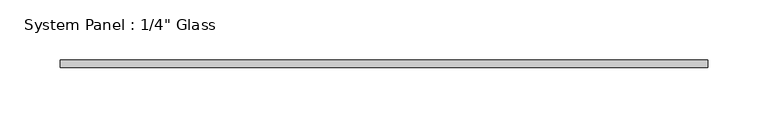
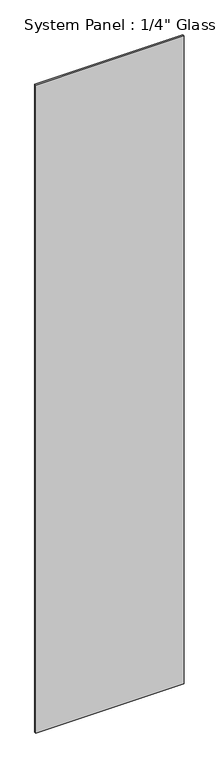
"""IFC4 building model written with IfcOpenShell, lengths in millimetres: plate geometry."""

from ifc_helpers import new_model, si_unit, origin, origin_with_axes, place, context, project, spatial, polyline, outline, extrude, source, transform, mapped, element, save


def plate_85447239(model_context):
    return source(origin(), model_context, "Body", "SweptSolid", [
        extrude(outline(polyline([(269.6266817, -3.175), (-269.6266817, -3.175), (-269.6266817, 3.175), (269.6266817, 3.175), (269.6266817, -3.175)])), origin_with_axes(), (0.0, 0.0, 1.0), 2489.2),
    ])


if __name__ == "__main__":
    model = new_model("IFC4")
    model_context = context("Model", 3, world=origin())
    ifc_project = project(units=[si_unit("LENGTHUNIT", "METRE", prefix="MILLI")], contexts=[model_context])
    site = spatial("IfcSite", under=ifc_project)
    building = spatial("IfcBuilding", under=site)
    placement = place(None, origin())
    plate_shape = plate_85447239(model_context)
    element("IfcPlate", 1, ObjectType="System Panel : 1/4\" Glass", at=placement, inside=building, context=model_context, shape_type="MappedRepresentation", body=[
        mapped(plate_shape, transform((0.0, 0.0, 0.0), x_axis=(1.0, 0.0, 0.0), y_axis=(0.0, 1.0, 0.0), z_axis=(0.0, 0.0, 1.0))),
    ])
    save(model, "model.ifc")
